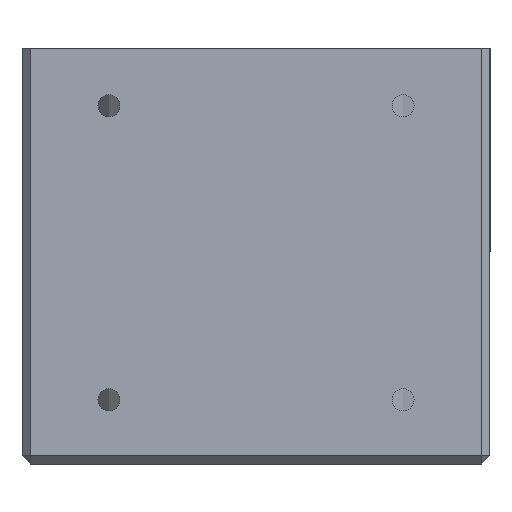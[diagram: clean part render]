
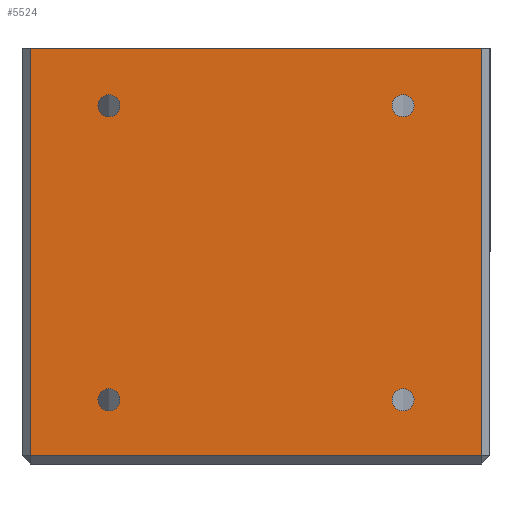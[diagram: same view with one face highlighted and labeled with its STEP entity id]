
A CAD part, front view. The second image highlights one B-rep face of the part: STEP entity #5524.
In plain terms, the highlighted planar face has unit normal (0, -1, 0).
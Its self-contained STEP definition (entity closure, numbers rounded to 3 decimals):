
#24 = ORIENTED_EDGE ( 'NONE', *, *, #613, .T. ) ;
#147 = AXIS2_PLACEMENT_3D ( 'NONE', #5688, #2630, #6149 ) ;
#289 = PLANE ( 'NONE',  #4504 ) ;
#413 = EDGE_CURVE ( 'NONE', #4242, #5967, #5088, .T. ) ;
#433 = CARTESIAN_POINT ( 'NONE',  ( 17.961, -28.575, -8.392 ) ) ;
#490 = VERTEX_POINT ( 'NONE', #4801 ) ;
#519 = CARTESIAN_POINT ( 'NONE',  ( -27.575, -28.575, 0. ) ) ;
#523 = CIRCLE ( 'NONE', #147, 1.353 ) ;
#548 = VERTEX_POINT ( 'NONE', #5290 ) ;
#613 = EDGE_CURVE ( 'NONE', #4242, #548, #2167, .T. ) ;
#728 = CARTESIAN_POINT ( 'NONE',  ( 28.575, -28.575, 0. ) ) ;
#820 = DIRECTION ( 'NONE',  ( 0., -1., 0. ) ) ;
#964 = DIRECTION ( 'NONE',  ( 0., -1., 0. ) ) ;
#1046 = EDGE_LOOP ( 'NONE', ( #1827, #1920, #2377, #24 ) ) ;
#1047 = AXIS2_PLACEMENT_3D ( 'NONE', #1929, #5491, #2418 ) ;
#1074 = CARTESIAN_POINT ( 'NONE',  ( -17.961, -28.575, -7.039 ) ) ;
#1082 = CARTESIAN_POINT ( 'NONE',  ( 17.961, -28.575, -41.608 ) ) ;
#1121 = EDGE_LOOP ( 'NONE', ( #4073, #5736 ) ) ;
#1136 = LINE ( 'NONE', #5435, #3681 ) ;
#1241 = EDGE_CURVE ( 'NONE', #4634, #4910, #5904, .T. ) ;
#1283 = ORIENTED_EDGE ( 'NONE', *, *, #4351, .F. ) ;
#1287 = CIRCLE ( 'NONE', #4531, 1.353 ) ;
#1316 = CIRCLE ( 'NONE', #2625, 1.353 ) ;
#1325 = CARTESIAN_POINT ( 'NONE',  ( 17.961, -28.575, -7.039 ) ) ;
#1682 = ORIENTED_EDGE ( 'NONE', *, *, #4439, .F. ) ;
#1779 = EDGE_CURVE ( 'NONE', #490, #5967, #1136, .T. ) ;
#1827 = ORIENTED_EDGE ( 'NONE', *, *, #6327, .T. ) ;
#1880 = EDGE_CURVE ( 'NONE', #6340, #5310, #4881, .T. ) ;
#1920 = ORIENTED_EDGE ( 'NONE', *, *, #1779, .T. ) ;
#1929 = CARTESIAN_POINT ( 'NONE',  ( 17.961, -28.575, -42.961 ) ) ;
#2046 = LINE ( 'NONE', #5968, #5917 ) ;
#2061 = DIRECTION ( 'NONE',  ( 0., -1., 0. ) ) ;
#2167 = LINE ( 'NONE', #5908, #5886 ) ;
#2204 = VECTOR ( 'NONE', #5701, 1000. ) ;
#2250 = DIRECTION ( 'NONE',  ( 0., -1., 0. ) ) ;
#2360 = EDGE_CURVE ( 'NONE', #5419, #6288, #1287, .T. ) ;
#2377 = ORIENTED_EDGE ( 'NONE', *, *, #413, .F. ) ;
#2379 = EDGE_LOOP ( 'NONE', ( #5949, #1682 ) ) ;
#2418 = DIRECTION ( 'NONE',  ( 0., 0., -1. ) ) ;
#2435 = DIRECTION ( 'NONE',  ( 0., 0., -1. ) ) ;
#2509 = CIRCLE ( 'NONE', #1047, 1.353 ) ;
#2543 = AXIS2_PLACEMENT_3D ( 'NONE', #1074, #964, #6119 ) ;
#2561 = CARTESIAN_POINT ( 'NONE',  ( -17.961, -28.575, -7.039 ) ) ;
#2578 = CARTESIAN_POINT ( 'NONE',  ( -17.961, -28.575, -42.961 ) ) ;
#2625 = AXIS2_PLACEMENT_3D ( 'NONE', #2561, #2061, #3071 ) ;
#2630 = DIRECTION ( 'NONE',  ( 0., -1., 0. ) ) ;
#2633 = EDGE_LOOP ( 'NONE', ( #1283, #4621 ) ) ;
#2797 = VERTEX_POINT ( 'NONE', #1082 ) ;
#2887 = DIRECTION ( 'NONE',  ( 0., 0., 1. ) ) ;
#3071 = DIRECTION ( 'NONE',  ( 0., 0., -1. ) ) ;
#3110 = CARTESIAN_POINT ( 'NONE',  ( -17.961, -28.575, -5.687 ) ) ;
#3120 = DIRECTION ( 'NONE',  ( 0., 0., -1. ) ) ;
#3219 = FACE_BOUND ( 'NONE', #1121, .T. ) ;
#3321 = DIRECTION ( 'NONE',  ( 0., 0., -1. ) ) ;
#3541 = CIRCLE ( 'NONE', #5325, 1.353 ) ;
#3660 = ORIENTED_EDGE ( 'NONE', *, *, #6102, .F. ) ;
#3681 = VECTOR ( 'NONE', #2887, 1000. ) ;
#3696 = CARTESIAN_POINT ( 'NONE',  ( -17.961, -28.575, -42.961 ) ) ;
#3770 = CARTESIAN_POINT ( 'NONE',  ( -17.961, -28.575, -41.608 ) ) ;
#3858 = CARTESIAN_POINT ( 'NONE',  ( 28.575, -28.575, -50.8 ) ) ;
#3875 = EDGE_CURVE ( 'NONE', #2797, #4132, #3541, .T. ) ;
#3880 = AXIS2_PLACEMENT_3D ( 'NONE', #1325, #6406, #2435 ) ;
#4073 = ORIENTED_EDGE ( 'NONE', *, *, #1241, .F. ) ;
#4132 = VERTEX_POINT ( 'NONE', #5045 ) ;
#4242 = VERTEX_POINT ( 'NONE', #519 ) ;
#4313 = EDGE_CURVE ( 'NONE', #4910, #4634, #1316, .T. ) ;
#4351 = EDGE_CURVE ( 'NONE', #6288, #5419, #5900, .T. ) ;
#4369 = DIRECTION ( 'NONE',  ( 1., 0., 0. ) ) ;
#4408 = FACE_OUTER_BOUND ( 'NONE', #1046, .T. ) ;
#4439 = EDGE_CURVE ( 'NONE', #5310, #6340, #523, .T. ) ;
#4504 = AXIS2_PLACEMENT_3D ( 'NONE', #3858, #820, #4369 ) ;
#4531 = AXIS2_PLACEMENT_3D ( 'NONE', #3696, #6376, #5323 ) ;
#4571 = FACE_BOUND ( 'NONE', #4809, .T. ) ;
#4621 = ORIENTED_EDGE ( 'NONE', *, *, #2360, .F. ) ;
#4634 = VERTEX_POINT ( 'NONE', #5443 ) ;
#4801 = CARTESIAN_POINT ( 'NONE',  ( 27.575, -28.575, -49.8 ) ) ;
#4809 = EDGE_LOOP ( 'NONE', ( #3660, #6386 ) ) ;
#4881 = CIRCLE ( 'NONE', #3880, 1.353 ) ;
#4910 = VERTEX_POINT ( 'NONE', #3110 ) ;
#5045 = CARTESIAN_POINT ( 'NONE',  ( 17.961, -28.575, -44.313 ) ) ;
#5088 = LINE ( 'NONE', #728, #2204 ) ;
#5224 = CARTESIAN_POINT ( 'NONE',  ( 17.961, -28.575, -5.687 ) ) ;
#5290 = CARTESIAN_POINT ( 'NONE',  ( -27.575, -28.575, -49.8 ) ) ;
#5310 = VERTEX_POINT ( 'NONE', #5224 ) ;
#5323 = DIRECTION ( 'NONE',  ( 0., 0., -1. ) ) ;
#5325 = AXIS2_PLACEMENT_3D ( 'NONE', #5815, #2250, #3321 ) ;
#5419 = VERTEX_POINT ( 'NONE', #3770 ) ;
#5435 = CARTESIAN_POINT ( 'NONE',  ( 27.575, -28.575, -50.8 ) ) ;
#5443 = CARTESIAN_POINT ( 'NONE',  ( -17.961, -28.575, -8.392 ) ) ;
#5491 = DIRECTION ( 'NONE',  ( 0., -1., 0. ) ) ;
#5495 = DIRECTION ( 'NONE',  ( 1., 0., 0. ) ) ;
#5524 = ADVANCED_FACE ( 'NONE', ( #3219, #5889, #4571, #5759, #4408 ), #289, .T. ) ;
#5688 = CARTESIAN_POINT ( 'NONE',  ( 17.961, -28.575, -7.039 ) ) ;
#5701 = DIRECTION ( 'NONE',  ( 1., 0., 0. ) ) ;
#5706 = AXIS2_PLACEMENT_3D ( 'NONE', #2578, #6112, #3120 ) ;
#5736 = ORIENTED_EDGE ( 'NONE', *, *, #4313, .F. ) ;
#5759 = FACE_BOUND ( 'NONE', #2633, .T. ) ;
#5800 = CARTESIAN_POINT ( 'NONE',  ( 27.575, -28.575, 0. ) ) ;
#5815 = CARTESIAN_POINT ( 'NONE',  ( 17.961, -28.575, -42.961 ) ) ;
#5886 = VECTOR ( 'NONE', #6372, 1000. ) ;
#5889 = FACE_BOUND ( 'NONE', #2379, .T. ) ;
#5900 = CIRCLE ( 'NONE', #5706, 1.353 ) ;
#5904 = CIRCLE ( 'NONE', #2543, 1.353 ) ;
#5908 = CARTESIAN_POINT ( 'NONE',  ( -27.575, -28.575, -50.8 ) ) ;
#5917 = VECTOR ( 'NONE', #5495, 1000. ) ;
#5949 = ORIENTED_EDGE ( 'NONE', *, *, #1880, .F. ) ;
#5967 = VERTEX_POINT ( 'NONE', #5800 ) ;
#5968 = CARTESIAN_POINT ( 'NONE',  ( 28.575, -28.575, -49.8 ) ) ;
#6102 = EDGE_CURVE ( 'NONE', #4132, #2797, #2509, .T. ) ;
#6112 = DIRECTION ( 'NONE',  ( 0., -1., 0. ) ) ;
#6119 = DIRECTION ( 'NONE',  ( 0., 0., -1. ) ) ;
#6149 = DIRECTION ( 'NONE',  ( 0., 0., -1. ) ) ;
#6288 = VERTEX_POINT ( 'NONE', #6377 ) ;
#6327 = EDGE_CURVE ( 'NONE', #548, #490, #2046, .T. ) ;
#6340 = VERTEX_POINT ( 'NONE', #433 ) ;
#6372 = DIRECTION ( 'NONE',  ( 0., 0., -1. ) ) ;
#6376 = DIRECTION ( 'NONE',  ( 0., -1., 0. ) ) ;
#6377 = CARTESIAN_POINT ( 'NONE',  ( -17.961, -28.575, -44.313 ) ) ;
#6386 = ORIENTED_EDGE ( 'NONE', *, *, #3875, .F. ) ;
#6406 = DIRECTION ( 'NONE',  ( 0., -1., 0. ) ) ;
